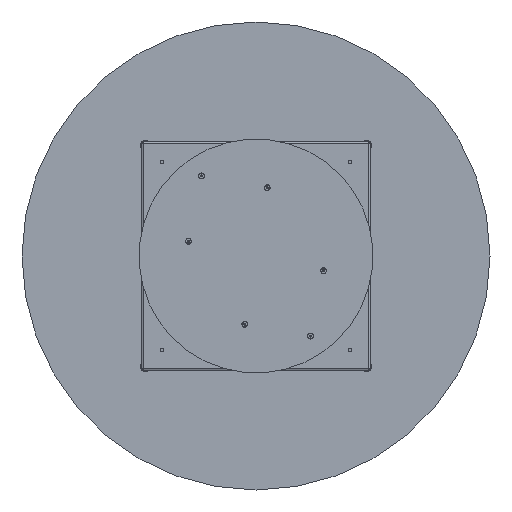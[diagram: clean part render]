
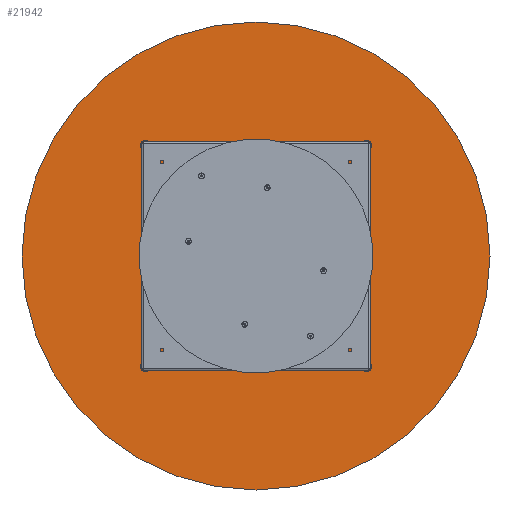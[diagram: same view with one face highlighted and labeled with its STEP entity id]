
A CAD part, front view. The second image highlights one B-rep face of the part: STEP entity #21942.
In plain terms, the highlighted planar face has unit normal (0, -1, 0).
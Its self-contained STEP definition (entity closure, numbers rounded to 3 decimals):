
#1167 = CARTESIAN_POINT ( 'NONE',  ( 0., 0., 0. ) ) ;
#2574 = DIRECTION ( 'NONE',  ( 0., -1., 0. ) ) ;
#3014 = ORIENTED_EDGE ( 'NONE', *, *, #18284, .T. ) ;
#3402 = DIRECTION ( 'NONE',  ( 0., -1., 0. ) ) ;
#4164 = AXIS2_PLACEMENT_3D ( 'NONE', #16071, #2574, #10819 ) ;
#7067 = EDGE_CURVE ( 'NONE', #16811, #9705, #9577, .T. ) ;
#8139 = DIRECTION ( 'NONE',  ( 0., 0., -1. ) ) ;
#8334 = EDGE_LOOP ( 'NONE', ( #10328, #3014 ) ) ;
#9126 = CIRCLE ( 'NONE', #21905, 700. ) ;
#9577 = CIRCLE ( 'NONE', #19098, 700. ) ;
#9705 = VERTEX_POINT ( 'NONE', #22316 ) ;
#10328 = ORIENTED_EDGE ( 'NONE', *, *, #7067, .T. ) ;
#10819 = DIRECTION ( 'NONE',  ( 0., 0., -1. ) ) ;
#12535 = CARTESIAN_POINT ( 'NONE',  ( 0., 0., 0. ) ) ;
#16071 = CARTESIAN_POINT ( 'NONE',  ( 0., 0., 0. ) ) ;
#16811 = VERTEX_POINT ( 'NONE', #19671 ) ;
#16839 = DIRECTION ( 'NONE',  ( 0., -1., 0. ) ) ;
#18251 = PLANE ( 'NONE',  #4164 ) ;
#18284 = EDGE_CURVE ( 'NONE', #9705, #16811, #9126, .T. ) ;
#19098 = AXIS2_PLACEMENT_3D ( 'NONE', #1167, #16839, #8139 ) ;
#19671 = CARTESIAN_POINT ( 'NONE',  ( 0., 0., -700. ) ) ;
#19959 = FACE_OUTER_BOUND ( 'NONE', #8334, .T. ) ;
#21349 = DIRECTION ( 'NONE',  ( 0., 0., -1. ) ) ;
#21905 = AXIS2_PLACEMENT_3D ( 'NONE', #12535, #3402, #21349 ) ;
#21942 = ADVANCED_FACE ( 'NONE', ( #19959 ), #18251, .T. ) ;
#22316 = CARTESIAN_POINT ( 'NONE',  ( 0., 0., 700. ) ) ;
